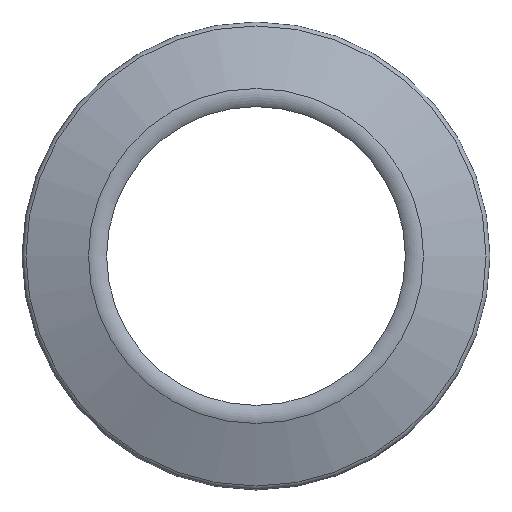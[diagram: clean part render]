
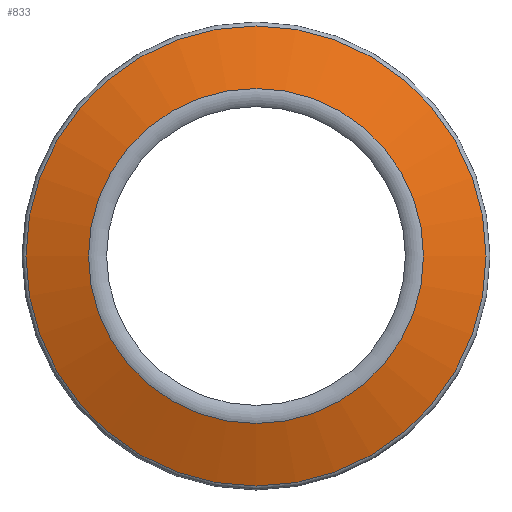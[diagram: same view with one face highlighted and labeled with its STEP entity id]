
A CAD part, front view. The second image highlights one B-rep face of the part: STEP entity #833.
In plain terms, the highlighted conical face has half-angle 70 degrees and reference radius 50.274 mm.
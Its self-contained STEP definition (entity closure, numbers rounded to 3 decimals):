
#80=CONICAL_SURFACE('',#965,50.274,1.222);
#114=ORIENTED_EDGE('',*,*,#201,.F.);
#115=ORIENTED_EDGE('',*,*,#203,.T.);
#201=EDGE_CURVE('',#251,#251,#319,.T.);
#203=EDGE_CURVE('',#253,#253,#321,.F.);
#251=VERTEX_POINT('',#1331);
#253=VERTEX_POINT('',#1337);
#319=CIRCLE('',#962,38.492);
#321=CIRCLE('',#966,28.026);
#382=EDGE_LOOP('',(#114));
#383=EDGE_LOOP('',(#115));
#482=FACE_BOUND('',#382,.T.);
#483=FACE_BOUND('',#383,.T.);
#833=ADVANCED_FACE('',(#482,#483),#80,.T.);
#962=AXIS2_PLACEMENT_3D('',#1330,#1104,#1105);
#965=AXIS2_PLACEMENT_3D('',#1335,#1110,#1111);
#966=AXIS2_PLACEMENT_3D('',#1336,#1112,#1113);
#1104=DIRECTION('',(0.,1.,0.));
#1105=DIRECTION('',(0.,0.,1.));
#1110=DIRECTION('',(0.,1.,0.));
#1111=DIRECTION('',(0.,0.,1.));
#1112=DIRECTION('',(0.,-1.,0.));
#1113=DIRECTION('',(0.,0.,-1.));
#1330=CARTESIAN_POINT('',(0.,-12.55,0.));
#1331=CARTESIAN_POINT('',(0.,-12.55,38.492));
#1335=CARTESIAN_POINT('',(0.,-8.262,0.));
#1336=CARTESIAN_POINT('',(0.,-16.359,0.));
#1337=CARTESIAN_POINT('',(0.,-16.359,-28.026));
